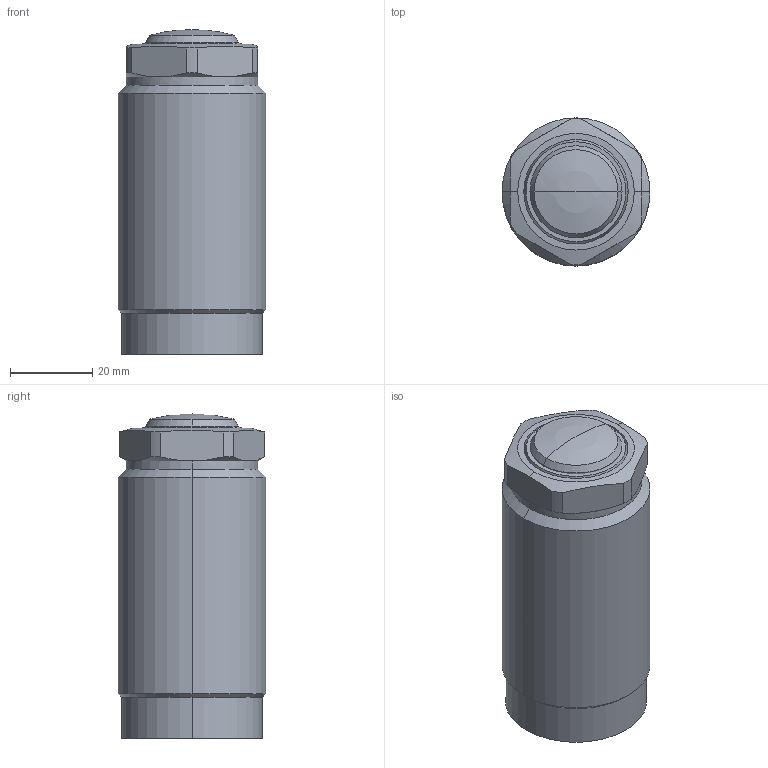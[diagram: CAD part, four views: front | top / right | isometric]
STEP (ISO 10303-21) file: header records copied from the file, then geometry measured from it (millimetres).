
FILE_DESCRIPTION((' '),'2;1');
FILE_NAME( 'TGP36-RL.x_t.stp', '2025-02-10T16:03:55', (' '), ('--- Datakit www.datakit.com---'), ' Datakit CrossCadWare V2024.1 Dec 21 2023', 'Mastercam 2025', ' ');
FILE_SCHEMA(('AUTOMOTIVE_DESIGN { 1 0 10303 214 1 1 1 1 }'));
Length unit declared in the file: millimetre
Products named in the file (1): TGP36-RL
Bounding box: 36 x 36 x 79 mm (x, y, z)
Volume: 84080.5 mm3; surface area: 13640.4 mm2
Topology: 2 solids, 2 shells, 61 faces, 155 edges, 101 vertices
Faces by surface type: cylinder 26, plane 15, cone 14, torus 4, sphere 2
Entity records: 1972 total; most frequent: CARTESIAN_POINT 452, DIRECTION 336, ORIENTED_EDGE 302, EDGE_CURVE 151, AXIS2_PLACEMENT_3D 145, VERTEX_POINT 101, CIRCLE 83, EDGE_LOOP 68
